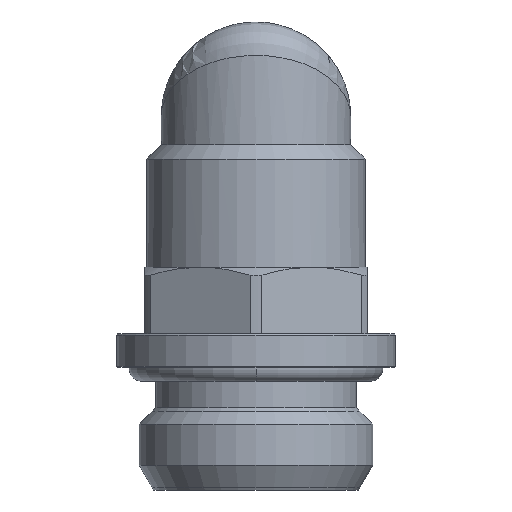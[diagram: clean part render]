
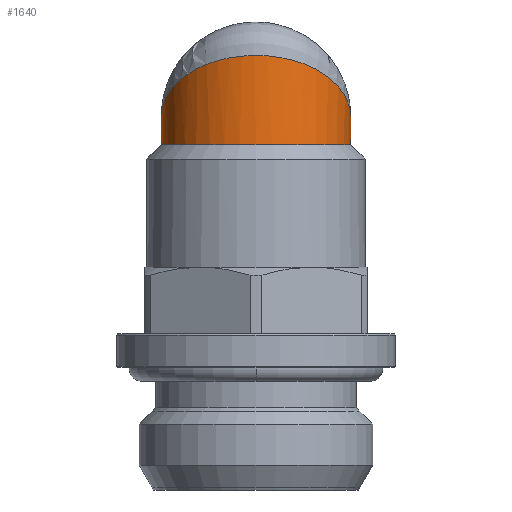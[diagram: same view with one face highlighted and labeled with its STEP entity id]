
A CAD part, left-side view. The second image highlights one B-rep face of the part: STEP entity #1640.
In plain terms, the highlighted cylindrical face has radius 8.5 mm (diameter 17 mm), a partial arc.
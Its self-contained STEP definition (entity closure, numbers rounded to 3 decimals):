
#1640=ADVANCED_FACE('', (#1650), #1660, .T.);
#6680=AXIS2_PLACEMENT_3D('Ax2Pl3d', #6690, #6700, #6710);
#6720=AXIS2_PLACEMENT_3D('Ax2Pl3d', #6730, #6740, #6750);
#6840=AXIS2_PLACEMENT_3D('Ax2Pl3d', #6850, #6860, #6870);
#6880=AXIS2_PLACEMENT_3D('Ax2Pl3d', #6890, #6900, #6910);
#18960=B_SPLINE_CURVE_WITH_KNOTS('Bspl', 3, (#18970,#18980,#18990,
#19000,#19010,#19020,#19030,#19040,#19050,#19060,#19070,#19080,#19090,
#19100,#19110,#19120,#19130,#19140,#19150,#19160,#19170,#19180,#19190,
#19200,#19210,#19220,#19230), .UNSPECIFIED., .F., .F., (4,1,1,1,1,1,1,1,
1,1,1,1,1,1,1,1,1,1,1,1,1,1,1,1,4), (0.,0.038,0.092,
0.145,0.198,0.249,0.299,
0.348,0.396,0.42,0.445,
0.469,0.507,0.531,0.555,
0.58,0.604,0.652,0.701,
0.751,0.802,0.855,0.908,
0.962,1.), .UNSPECIFIED.);
#21180=CARTESIAN_POINT('', (35.872,36.589,40.757));
#6690=CARTESIAN_POINT('HicPkt', (33.372,28.465,
43.257));
#21190=CARTESIAN_POINT('', (33.372,36.965,43.257));
#21200=CARTESIAN_POINT('', (33.372,19.965,43.257))
;
#6730=CARTESIAN_POINT('HicPkt', (33.372,28.465,
43.257));
#21210=CARTESIAN_POINT('', (35.872,20.341,40.757));
#6850=CARTESIAN_POINT('HicPkt', (33.372,28.465,
40.757));
#6890=CARTESIAN_POINT('HicPkt', (33.372,28.465,
40.757));
#18970=CARTESIAN_POINT('', (33.372,19.965,43.257));
#18980=CARTESIAN_POINT('', (33.059,19.965,43.459));
#18990=CARTESIAN_POINT('', (32.303,20.006,43.949));
#19000=CARTESIAN_POINT('', (31.123,20.232,44.712));
#19010=CARTESIAN_POINT('', (29.868,20.682,45.524))
;
#19020=CARTESIAN_POINT('', (28.699,21.323,46.28));
#19030=CARTESIAN_POINT('', (27.641,22.14,46.965));
#19040=CARTESIAN_POINT('', (26.718,23.119,47.562));
#19050=CARTESIAN_POINT('', (25.954,24.24,48.056))
;
#19060=CARTESIAN_POINT('', (25.466,25.283,48.372));
#19070=CARTESIAN_POINT('', (25.179,26.165,48.558));
#19080=CARTESIAN_POINT('', (25.016,26.851,48.663));
#19090=CARTESIAN_POINT('', (24.891,27.683,48.744))
;
#19100=CARTESIAN_POINT('', (24.855,28.532,48.768));
#19110=CARTESIAN_POINT('', (24.911,29.376,48.732));
#19120=CARTESIAN_POINT('', (25.016,30.078,48.663));
#19130=CARTESIAN_POINT('', (25.179,30.764,48.558));
#19140=CARTESIAN_POINT('', (25.466,31.647,48.372));
#19150=CARTESIAN_POINT('', (25.954,32.689,48.056));
#19160=CARTESIAN_POINT('', (26.718,33.811,47.562));
#19170=CARTESIAN_POINT('', (27.641,34.789,46.965))
;
#19180=CARTESIAN_POINT('', (28.699,35.607,46.28));
#19190=CARTESIAN_POINT('', (29.868,36.247,45.524));
#19200=CARTESIAN_POINT('', (31.123,36.698,44.712));
#19210=CARTESIAN_POINT('', (32.303,36.923,43.949));
#19220=CARTESIAN_POINT('', (33.059,36.965,43.459));
#19230=CARTESIAN_POINT('', (33.372,36.965,43.257));
#22370=CIRCLE('Circle', #6840, 8.5);
#1660=CYLINDRICAL_SURFACE('Zyl', #6880, 8.5);
#6700=DIRECTION('Axis', (-0.707,-0.,-0.707));
#6710=DIRECTION('RefDirection', (0.707,0.,-0.707));
#6740=DIRECTION('Axis', (-0.707,-0.,-0.707));
#6750=DIRECTION('RefDirection', (0.707,0.,
-0.707));
#6860=DIRECTION('Axis', (0.,0.,-1.)
);
#6870=DIRECTION('RefDirection', (1.,0.,
0.));
#6900=DIRECTION('Axis', (0.,0.,1.));
#6910=DIRECTION('RefDirection', (1.,0.,-0.));
#27450=EDGE_CURVE('', #27460, #27430, #27470, .T.);
#27510=EDGE_CURVE('', #27520, #27490, #27530, .T.);
#27570=EDGE_CURVE('', #27520, #27430, #22370, .T.);
#27580=EDGE_CURVE('', #27490, #27460, #27590, .T.);
#30690=EDGE_LOOP('Edge_loop', (#30700,#30710,#30720,#30730));
#27470=ELLIPSE('Ellipse', #6680, 12.021, 8.5);
#27530=ELLIPSE('Ellipse', #6720, 12.021, 8.5);
#1650=FACE_OUTER_BOUND('Face_outer_bound', #30690, .T.);
#30700=ORIENTED_EDGE('', *, *, #27510, .T.);
#30710=ORIENTED_EDGE('', *, *, #27580, .T.);
#30720=ORIENTED_EDGE('', *, *, #27450, .T.);
#30730=ORIENTED_EDGE('', *, *, #27570, .F.);
#27590=SURFACE_CURVE('', #18960, (#1660), .CURVE_3D.);
#27430=VERTEX_POINT('', #21180);
#27460=VERTEX_POINT('', #21190);
#27490=VERTEX_POINT('', #21200);
#27520=VERTEX_POINT('', #21210);
